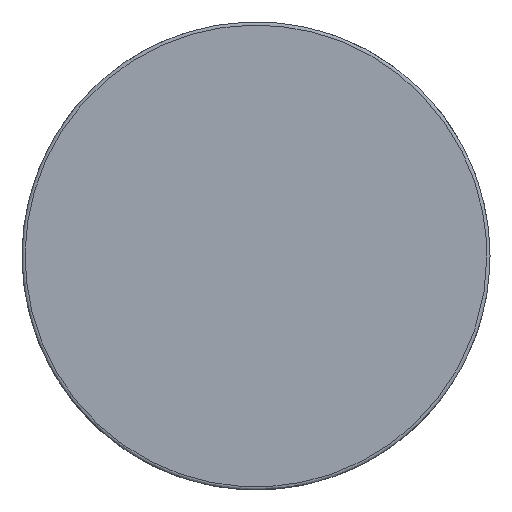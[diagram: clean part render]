
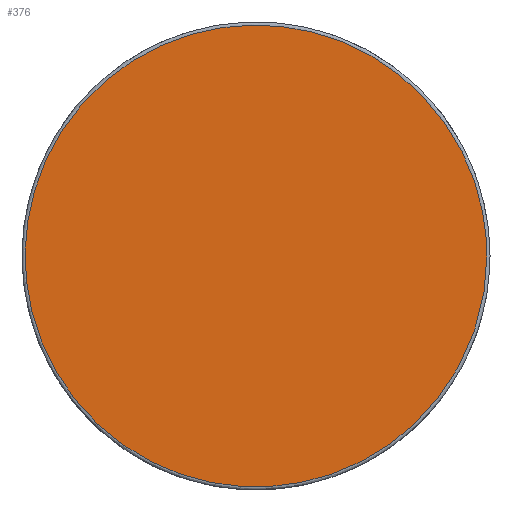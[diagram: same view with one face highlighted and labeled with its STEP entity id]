
A CAD part, top view. The second image highlights one B-rep face of the part: STEP entity #376.
In plain terms, the highlighted planar face has unit normal (0, 0, 1).
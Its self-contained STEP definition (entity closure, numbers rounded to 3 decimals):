
#376=ADVANCED_FACE('',(#693),#4242,.T.);
#693=FACE_OUTER_BOUND('',#1046,.T.);
#1046=EDGE_LOOP('',(#2374));
#2374=ORIENTED_EDGE('',*,*,#3047,.F.);
#3047=EDGE_CURVE('',#4112,#4112,#3714,.T.);
#3714=(
BOUNDED_CURVE()
B_SPLINE_CURVE(2,(#12649,#12650,#12651,#12652,#12653,#12654,#12655,#12656,
#12657),.UNSPECIFIED.,.T.,.F.)
B_SPLINE_CURVE_WITH_KNOTS((3,2,2,2,3),(0.,348.715,697.429,
1046.144,1394.858),.UNSPECIFIED.)
CURVE()
GEOMETRIC_REPRESENTATION_ITEM()
RATIONAL_B_SPLINE_CURVE((1.,0.707,1.,0.707,1.,0.707,
1.,0.707,1.))
REPRESENTATION_ITEM('')
);
#4112=VERTEX_POINT('',#12633);
#4242=PLANE('',#4547);
#4547=AXIS2_PLACEMENT_3D('',#12575,#4648,$);
#4648=DIRECTION('',(0.,0.,1.));
#12575=CARTESIAN_POINT('',(-281.25,281.25,400.));
#12633=CARTESIAN_POINT('',(222.,0.,400.));
#12649=CARTESIAN_POINT('',(222.,0.,400.));
#12650=CARTESIAN_POINT('',(222.,-222.,400.));
#12651=CARTESIAN_POINT('',(0.,-222.,400.));
#12652=CARTESIAN_POINT('',(-222.,-222.,400.));
#12653=CARTESIAN_POINT('',(-222.,0.,400.));
#12654=CARTESIAN_POINT('',(-222.,222.,400.));
#12655=CARTESIAN_POINT('',(0.,222.,400.));
#12656=CARTESIAN_POINT('',(222.,222.,400.));
#12657=CARTESIAN_POINT('',(222.,0.,400.));
